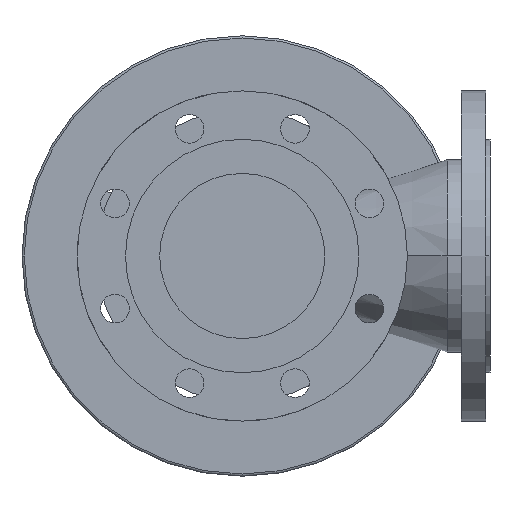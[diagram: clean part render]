
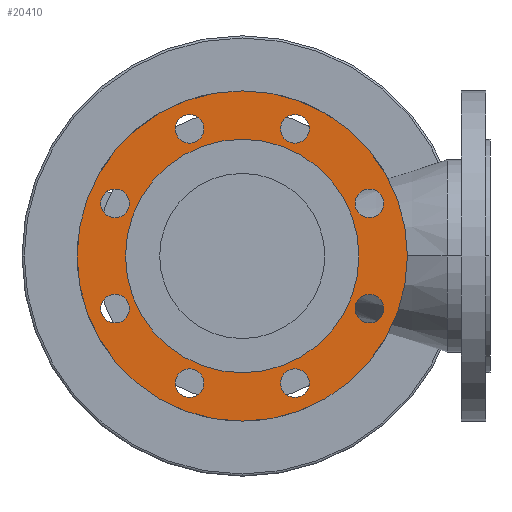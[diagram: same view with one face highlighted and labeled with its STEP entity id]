
A CAD part, front view. The second image highlights one B-rep face of the part: STEP entity #20410.
In plain terms, the highlighted planar face has unit normal (0, -1, 0).
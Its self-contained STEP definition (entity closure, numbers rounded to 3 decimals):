
#610=CARTESIAN_POINT('',(-106.,4.,0.));
#620=VERTEX_POINT('',#610);
#780=CARTESIAN_POINT('',(106.,4.,0.));
#790=VERTEX_POINT('',#780);
#820=CARTESIAN_POINT('',(0.,4.,0.));
#830=DIRECTION('',(0.,-1.,0.));
#840=DIRECTION('',(-1.,0.,0.));
#850=AXIS2_PLACEMENT_3D('',#820,#830,#840);
#860=CIRCLE('',#850,106.);
#870=EDGE_CURVE('',#620,#790,#860,.T.);
#7480=CARTESIAN_POINT('',(150.,4.,0.));
#7490=VERTEX_POINT('',#7480);
#7520=CARTESIAN_POINT('',(0.,4.,0.));
#7530=DIRECTION('',(0.,1.,0.));
#7540=DIRECTION('',(1.,0.,0.));
#7550=AXIS2_PLACEMENT_3D('',#7520,#7530,#7540);
#7560=CIRCLE('',#7550,150.);
#7570=CARTESIAN_POINT('',(-150.,4.,0.));
#7580=VERTEX_POINT('',#7570);
#7590=EDGE_CURVE('',#7580,#7490,#7560,.T.);
#7970=CARTESIAN_POINT('',(128.485,4.,-47.835));
#7980=VERTEX_POINT('',#7970);
#8140=CARTESIAN_POINT('',(102.485,4.,-47.835));
#8150=VERTEX_POINT('',#8140);
#8180=CARTESIAN_POINT('',(115.485,4.,-47.835));
#8190=DIRECTION('',(0.,1.,0.));
#8200=DIRECTION('',(1.,0.,0.));
#8210=AXIS2_PLACEMENT_3D('',#8180,#8190,#8200);
#8220=CIRCLE('',#8210,13.);
#8230=EDGE_CURVE('',#8150,#7980,#8220,.T.);
#8460=CARTESIAN_POINT('',(128.485,4.,47.835));
#8470=VERTEX_POINT('',#8460);
#8500=CARTESIAN_POINT('',(115.485,4.,47.835));
#8510=DIRECTION('',(0.,1.,0.));
#8520=DIRECTION('',(1.,0.,0.));
#8530=AXIS2_PLACEMENT_3D('',#8500,#8510,#8520);
#8540=CIRCLE('',#8530,13.);
#8550=CARTESIAN_POINT('',(102.485,4.,47.835));
#8560=VERTEX_POINT('',#8550);
#8570=EDGE_CURVE('',#8470,#8560,#8540,.T.);
#8950=CARTESIAN_POINT('',(60.835,4.,-115.485));
#8960=VERTEX_POINT('',#8950);
#9120=CARTESIAN_POINT('',(34.835,4.,-115.485));
#9130=VERTEX_POINT('',#9120);
#9160=CARTESIAN_POINT('',(47.835,4.,-115.485));
#9170=DIRECTION('',(0.,1.,0.));
#9180=DIRECTION('',(1.,0.,0.));
#9190=AXIS2_PLACEMENT_3D('',#9160,#9170,#9180);
#9200=CIRCLE('',#9190,13.);
#9210=EDGE_CURVE('',#9130,#8960,#9200,.T.);
#9440=CARTESIAN_POINT('',(34.835,4.,115.485));
#9450=VERTEX_POINT('',#9440);
#9480=CARTESIAN_POINT('',(47.835,4.,115.485));
#9490=DIRECTION('',(0.,1.,0.));
#9500=DIRECTION('',(1.,0.,0.));
#9510=AXIS2_PLACEMENT_3D('',#9480,#9490,#9500);
#9520=CIRCLE('',#9510,13.);
#9530=CARTESIAN_POINT('',(60.835,4.,115.485));
#9540=VERTEX_POINT('',#9530);
#9550=EDGE_CURVE('',#9450,#9540,#9520,.T.);
#9930=CARTESIAN_POINT('',(-34.835,4.,-115.485));
#9940=VERTEX_POINT('',#9930);
#9970=CARTESIAN_POINT('',(-47.835,4.,-115.485));
#9980=DIRECTION('',(0.,1.,0.));
#9990=DIRECTION('',(1.,0.,0.));
#10000=AXIS2_PLACEMENT_3D('',#9970,#9980,#9990);
#10010=CIRCLE('',#10000,13.);
#10020=CARTESIAN_POINT('',(-60.835,4.,-115.485));
#10030=VERTEX_POINT('',#10020);
#10040=EDGE_CURVE('',#9940,#10030,#10010,.T.);
#10420=CARTESIAN_POINT('',(-34.835,4.,115.485));
#10430=VERTEX_POINT('',#10420);
#10590=CARTESIAN_POINT('',(-60.835,4.,115.485));
#10600=VERTEX_POINT('',#10590);
#10630=CARTESIAN_POINT('',(-47.835,4.,115.485));
#10640=DIRECTION('',(0.,1.,0.));
#10650=DIRECTION('',(1.,0.,0.));
#10660=AXIS2_PLACEMENT_3D('',#10630,#10640,#10650);
#10670=CIRCLE('',#10660,13.);
#10680=EDGE_CURVE('',#10600,#10430,#10670,.T.);
#10910=CARTESIAN_POINT('',(-128.485,4.,-47.835));
#10920=VERTEX_POINT('',#10910);
#11080=CARTESIAN_POINT('',(-102.485,4.,-47.835));
#11090=VERTEX_POINT('',#11080);
#11120=CARTESIAN_POINT('',(-115.485,4.,-47.835));
#11130=DIRECTION('',(0.,1.,0.));
#11140=DIRECTION('',(1.,0.,0.));
#11150=AXIS2_PLACEMENT_3D('',#11120,#11130,#11140);
#11160=CIRCLE('',#11150,13.);
#11170=EDGE_CURVE('',#11090,#10920,#11160,.T.);
#11400=CARTESIAN_POINT('',(-102.485,4.,47.835));
#11410=VERTEX_POINT('',#11400);
#11570=CARTESIAN_POINT('',(-128.485,4.,47.835));
#11580=VERTEX_POINT('',#11570);
#11610=CARTESIAN_POINT('',(-115.485,4.,47.835));
#11620=DIRECTION('',(0.,1.,0.));
#11630=DIRECTION('',(1.,0.,0.));
#11640=AXIS2_PLACEMENT_3D('',#11610,#11620,#11630);
#11650=CIRCLE('',#11640,13.);
#11660=EDGE_CURVE('',#11580,#11410,#11650,.T.);
#19860=CARTESIAN_POINT('',(0.,4.,0.));
#19870=DIRECTION('',(0.,1.,0.));
#19880=DIRECTION('',(0.,0.,1.));
#19890=AXIS2_PLACEMENT_3D('',#19860,#19870,#19880);
#19900=PLANE('',#19890);
#19910=EDGE_CURVE('',#11410,#11580,#11650,.T.);
#19920=ORIENTED_EDGE('',*,*,#19910,.T.);
#19930=ORIENTED_EDGE('',*,*,#11660,.T.);
#19940=EDGE_LOOP('',(#19930,#19920));
#19950=FACE_BOUND('',#19940,.T.);
#19960=EDGE_CURVE('',#10920,#11090,#11160,.T.);
#19970=ORIENTED_EDGE('',*,*,#19960,.T.);
#19980=ORIENTED_EDGE('',*,*,#11170,.T.);
#19990=EDGE_LOOP('',(#19980,#19970));
#20000=FACE_BOUND('',#19990,.T.);
#20010=EDGE_CURVE('',#10430,#10600,#10670,.T.);
#20020=ORIENTED_EDGE('',*,*,#20010,.T.);
#20030=ORIENTED_EDGE('',*,*,#10680,.T.);
#20040=EDGE_LOOP('',(#20030,#20020));
#20050=FACE_BOUND('',#20040,.T.);
#20060=EDGE_CURVE('',#10030,#9940,#10010,.T.);
#20070=ORIENTED_EDGE('',*,*,#20060,.T.);
#20080=ORIENTED_EDGE('',*,*,#10040,.T.);
#20090=EDGE_LOOP('',(#20080,#20070));
#20100=FACE_BOUND('',#20090,.T.);
#20110=ORIENTED_EDGE('',*,*,#9550,.T.);
#20120=EDGE_CURVE('',#9540,#9450,#9520,.T.);
#20130=ORIENTED_EDGE('',*,*,#20120,.T.);
#20140=EDGE_LOOP('',(#20130,#20110));
#20150=FACE_BOUND('',#20140,.T.);
#20160=EDGE_CURVE('',#8960,#9130,#9200,.T.);
#20170=ORIENTED_EDGE('',*,*,#20160,.T.);
#20180=ORIENTED_EDGE('',*,*,#9210,.T.);
#20190=EDGE_LOOP('',(#20180,#20170));
#20200=FACE_BOUND('',#20190,.T.);
#20210=ORIENTED_EDGE('',*,*,#8570,.T.);
#20220=EDGE_CURVE('',#8560,#8470,#8540,.T.);
#20230=ORIENTED_EDGE('',*,*,#20220,.T.);
#20240=EDGE_LOOP('',(#20230,#20210));
#20250=FACE_BOUND('',#20240,.T.);
#20260=EDGE_CURVE('',#7980,#8150,#8220,.T.);
#20270=ORIENTED_EDGE('',*,*,#20260,.T.);
#20280=ORIENTED_EDGE('',*,*,#8230,.T.);
#20290=EDGE_LOOP('',(#20280,#20270));
#20300=FACE_BOUND('',#20290,.T.);
#20310=ORIENTED_EDGE('',*,*,#7590,.F.);
#20320=EDGE_CURVE('',#7490,#7580,#7560,.T.);
#20330=ORIENTED_EDGE('',*,*,#20320,.F.);
#20340=EDGE_LOOP('',(#20330,#20310));
#20350=FACE_OUTER_BOUND('',#20340,.T.);
#20360=EDGE_CURVE('',#790,#620,#860,.T.);
#20370=ORIENTED_EDGE('',*,*,#20360,.F.);
#20380=ORIENTED_EDGE('',*,*,#870,.F.);
#20390=EDGE_LOOP('',(#20380,#20370));
#20400=FACE_BOUND('',#20390,.T.);
#20410=ADVANCED_FACE('',(#19950,#20000,#20050,#20100,#20150,#20200,
#20250,#20300,#20350,#20400),#19900,.F.);
